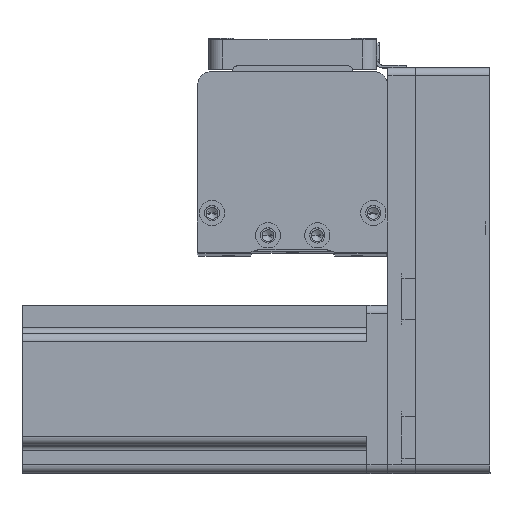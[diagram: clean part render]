
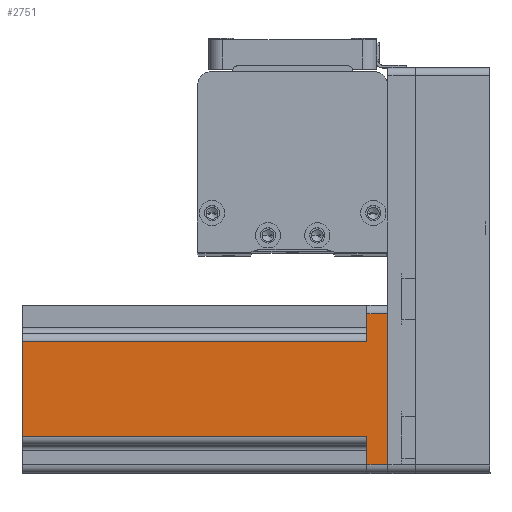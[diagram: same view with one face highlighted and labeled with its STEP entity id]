
A CAD part, top view. The second image highlights one B-rep face of the part: STEP entity #2751.
In plain terms, the highlighted planar face has unit normal (0, 0, 1) as drawn and (0, 1, 0) by its records, which use the part's own axes.
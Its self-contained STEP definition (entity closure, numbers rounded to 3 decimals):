
#160 = LINE ( 'NONE', #33907, #35295 ) ;
#689 = DIRECTION ( 'NONE',  ( -1., 0., 0. ) ) ;
#805 = EDGE_CURVE ( 'NONE', #26219, #36097, #3186, .T. ) ;
#871 = LINE ( 'NONE', #21071, #26998 ) ;
#1087 = CARTESIAN_POINT ( 'NONE',  ( 30., 30., 130.7 ) ) ;
#1309 = ORIENTED_EDGE ( 'NONE', *, *, #805, .T. ) ;
#1797 = EDGE_CURVE ( 'NONE', #41128, #38862, #8866, .T. ) ;
#1827 = VERTEX_POINT ( 'NONE', #36449 ) ;
#1946 = ORIENTED_EDGE ( 'NONE', *, *, #21016, .T. ) ;
#2751 = ADVANCED_FACE ( 'NONE', ( #19382 ), #34863, .F. ) ;
#3186 = LINE ( 'NONE', #29518, #38315 ) ;
#3493 = VECTOR ( 'NONE', #14638, 1000. ) ;
#4503 = DIRECTION ( 'NONE',  ( 1., 0., 0. ) ) ;
#5092 = VECTOR ( 'NONE', #11959, 1000. ) ;
#5259 = ORIENTED_EDGE ( 'NONE', *, *, #5328, .F. ) ;
#5328 = EDGE_CURVE ( 'NONE', #26219, #8144, #871, .T. ) ;
#6516 = CARTESIAN_POINT ( 'NONE',  ( -17., 30., 130.7 ) ) ;
#8137 = CARTESIAN_POINT ( 'NONE',  ( 17., 30., 7.5 ) ) ;
#8144 = VERTEX_POINT ( 'NONE', #8137 ) ;
#8866 = LINE ( 'NONE', #22585, #24825 ) ;
#9768 = LINE ( 'NONE', #43708, #22016 ) ;
#10144 = DIRECTION ( 'NONE',  ( 0., 0., -1. ) ) ;
#11868 = CARTESIAN_POINT ( 'NONE',  ( -27., 30., 0. ) ) ;
#11959 = DIRECTION ( 'NONE',  ( 0., 0., 1. ) ) ;
#12283 = EDGE_CURVE ( 'NONE', #25096, #41128, #12542, .T. ) ;
#12372 = CARTESIAN_POINT ( 'NONE',  ( 30., 30., 130.7 ) ) ;
#12542 = LINE ( 'NONE', #38307, #3493 ) ;
#13261 = ORIENTED_EDGE ( 'NONE', *, *, #15546, .T. ) ;
#14137 = LINE ( 'NONE', #35802, #5092 ) ;
#14638 = DIRECTION ( 'NONE',  ( 0., 0., 1. ) ) ;
#15546 = EDGE_CURVE ( 'NONE', #38862, #27471, #14137, .T. ) ;
#15791 = DIRECTION ( 'NONE',  ( -1., 0., 0. ) ) ;
#17000 = ORIENTED_EDGE ( 'NONE', *, *, #23046, .T. ) ;
#18803 = ORIENTED_EDGE ( 'NONE', *, *, #1797, .T. ) ;
#19382 = FACE_OUTER_BOUND ( 'NONE', #29942, .T. ) ;
#19824 = DIRECTION ( 'NONE',  ( -1., 0., 0. ) ) ;
#21016 = EDGE_CURVE ( 'NONE', #36097, #25096, #9768, .T. ) ;
#21071 = CARTESIAN_POINT ( 'NONE',  ( 20., 30., 7.5 ) ) ;
#22016 = VECTOR ( 'NONE', #19824, 1000. ) ;
#22585 = CARTESIAN_POINT ( 'NONE',  ( -20., 30., 7.5 ) ) ;
#23046 = EDGE_CURVE ( 'NONE', #1827, #8144, #160, .T. ) ;
#23152 = CARTESIAN_POINT ( 'NONE',  ( 27., 30., 7.5 ) ) ;
#24576 = EDGE_CURVE ( 'NONE', #1827, #27471, #36209, .T. ) ;
#24768 = CARTESIAN_POINT ( 'NONE',  ( -17., 30., 7.5 ) ) ;
#24825 = VECTOR ( 'NONE', #43043, 1000. ) ;
#24895 = DIRECTION ( 'NONE',  ( 0., -1., 0. ) ) ;
#25096 = VERTEX_POINT ( 'NONE', #11868 ) ;
#26219 = VERTEX_POINT ( 'NONE', #23152 ) ;
#26998 = VECTOR ( 'NONE', #689, 1000. ) ;
#27471 = VERTEX_POINT ( 'NONE', #6516 ) ;
#28201 = VECTOR ( 'NONE', #15791, 1000. ) ;
#29518 = CARTESIAN_POINT ( 'NONE',  ( 27., 30., 130.7 ) ) ;
#29942 = EDGE_LOOP ( 'NONE', ( #18803, #13261, #38965, #17000, #5259, #1309, #1946, #34627 ) ) ;
#33907 = CARTESIAN_POINT ( 'NONE',  ( 17., 30., 130.7 ) ) ;
#34627 = ORIENTED_EDGE ( 'NONE', *, *, #12283, .T. ) ;
#34863 = PLANE ( 'NONE',  #41733 ) ;
#35165 = CARTESIAN_POINT ( 'NONE',  ( -27., 30., 7.5 ) ) ;
#35295 = VECTOR ( 'NONE', #10144, 1000. ) ;
#35802 = CARTESIAN_POINT ( 'NONE',  ( -17., 30., 130.7 ) ) ;
#35934 = DIRECTION ( 'NONE',  ( 0., 0., -1. ) ) ;
#36097 = VERTEX_POINT ( 'NONE', #37014 ) ;
#36209 = LINE ( 'NONE', #12372, #28201 ) ;
#36449 = CARTESIAN_POINT ( 'NONE',  ( 17., 30., 130.7 ) ) ;
#37014 = CARTESIAN_POINT ( 'NONE',  ( 27., 30., 0. ) ) ;
#38307 = CARTESIAN_POINT ( 'NONE',  ( -27., 30., 130.7 ) ) ;
#38315 = VECTOR ( 'NONE', #35934, 1000. ) ;
#38862 = VERTEX_POINT ( 'NONE', #24768 ) ;
#38965 = ORIENTED_EDGE ( 'NONE', *, *, #24576, .F. ) ;
#41128 = VERTEX_POINT ( 'NONE', #35165 ) ;
#41733 = AXIS2_PLACEMENT_3D ( 'NONE', #1087, #24895, #4503 ) ;
#43043 = DIRECTION ( 'NONE',  ( 1., 0., 0. ) ) ;
#43708 = CARTESIAN_POINT ( 'NONE',  ( 30., 30., 0. ) ) ;
